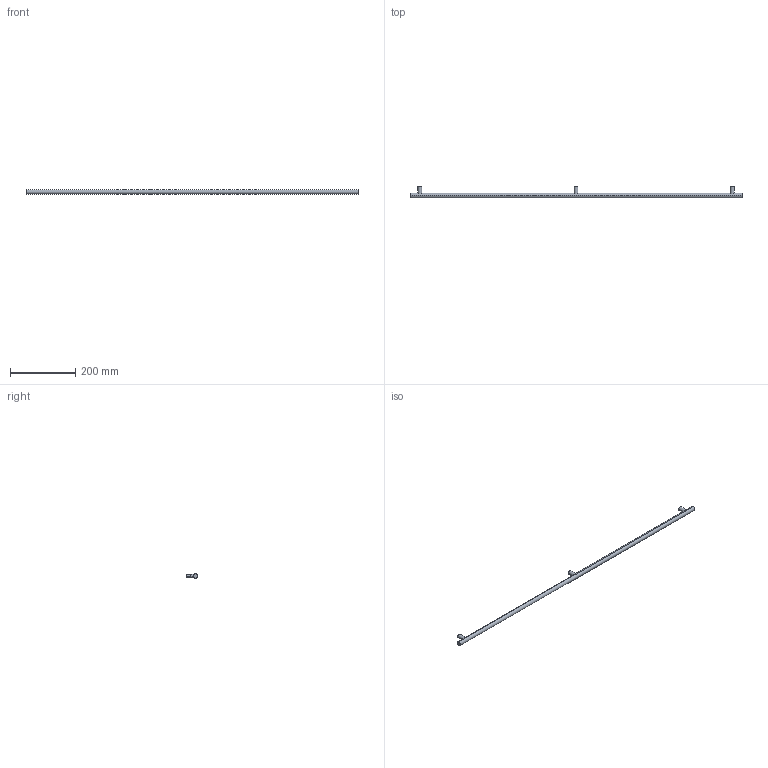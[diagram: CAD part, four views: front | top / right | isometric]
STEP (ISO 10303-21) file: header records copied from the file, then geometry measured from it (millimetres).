
FILE_DESCRIPTION( ( '' ), '1' );
FILE_NAME( 'D:/1.AUTOCAD EXPORT/Group 10/sheet_10_1/9071116.stp', '2013-10-21T09:19:22', ( '' ), ( '' ), ' ', ' ', ' ' );
FILE_SCHEMA( ( 'automotive_design' ) );
Length unit declared in the file: millimetre
Products named in the file (1): 1
Bounding box: 1020 x 35 x 14 mm (x, y, z)
Volume: 163934.8 mm3; surface area: 48127.6 mm2
Topology: 1 solids, 1 shells, 22 faces, 45 edges, 31 vertices
Faces by surface type: cylinder 14, plane 8
Entity records: 1358 total; most frequent: CARTESIAN_POINT 300, DIRECTION 104, STYLED_ITEM 99, PRESENTATION_STYLE_ASSIGNMENT 99, COLOUR_RGB 99, ORIENTED_EDGE 90, EDGE_CURVE 45, AXIS2_PLACEMENT_3D 45
